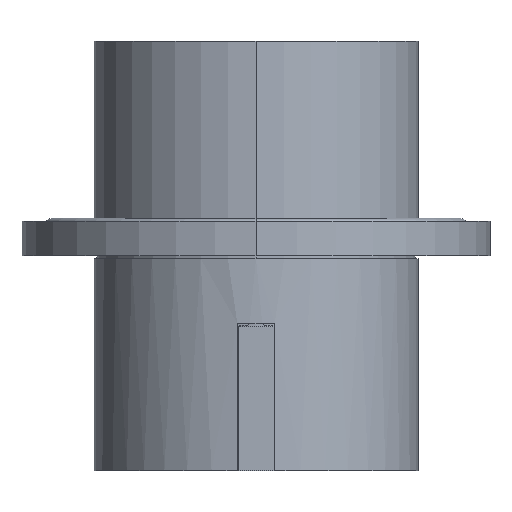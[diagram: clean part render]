
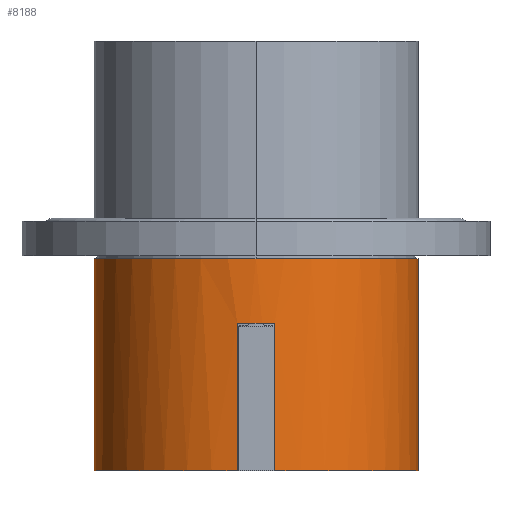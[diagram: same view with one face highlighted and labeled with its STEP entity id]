
A CAD part, left-side view. The second image highlights one B-rep face of the part: STEP entity #8188.
In plain terms, the highlighted cylindrical face has radius 22.5 mm (diameter 45 mm), a partial arc.
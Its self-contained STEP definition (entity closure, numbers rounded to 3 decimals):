
#7891=CARTESIAN_POINT('',(0.,0.,-9.));
#7892=DIRECTION('',(0.,0.,-1.));
#7893=DIRECTION('',(0.116,-0.993,0.));
#7894=AXIS2_PLACEMENT_3D('',#7891,#7892,#7893);
#7896=DIRECTION('',(0.,0.,-1.));
#7897=VECTOR('',#7896,20.5);
#7898=CARTESIAN_POINT('',(-2.6,-22.349,-9.));
#7899=LINE('',#7898,#7897);
#7900=CARTESIAN_POINT('',(0.,0.,0.));
#7901=DIRECTION('',(0.,0.,-1.));
#7902=DIRECTION('',(1.,0.,0.));
#7903=AXIS2_PLACEMENT_3D('',#7900,#7901,#7902);
#7905=DIRECTION('',(0.,0.,-1.));
#7906=VECTOR('',#7905,20.5);
#7907=CARTESIAN_POINT('',(2.6,-22.349,-9.));
#7908=LINE('',#7907,#7906);
#7962=DIRECTION('',(0.,0.,-1.));
#7963=VECTOR('',#7962,29.5);
#7964=CARTESIAN_POINT('',(22.5,0.,0.));
#7965=LINE('',#7964,#7963);
#7971=DIRECTION('',(0.,0.,-1.));
#7972=VECTOR('',#7971,29.5);
#7973=CARTESIAN_POINT('',(-22.5,0.,0.));
#7974=LINE('',#7973,#7972);
#7992=CARTESIAN_POINT('',(0.,0.,-29.5));
#7993=DIRECTION('',(0.,0.,-1.));
#7994=DIRECTION('',(-0.116,-0.993,0.));
#7995=AXIS2_PLACEMENT_3D('',#7992,#7993,#7994);
#8001=CARTESIAN_POINT('',(0.,0.,-29.5));
#8002=DIRECTION('',(0.,0.,-1.));
#8003=DIRECTION('',(1.,0.,0.));
#8004=AXIS2_PLACEMENT_3D('',#8001,#8002,#8003);
#8011=CARTESIAN_POINT('',(22.5,0.,0.));
#8012=CARTESIAN_POINT('',(22.5,0.,-29.5));
#8013=VERTEX_POINT('',#8011);
#8014=VERTEX_POINT('',#8012);
#8015=CARTESIAN_POINT('',(-22.5,0.,0.));
#8016=CARTESIAN_POINT('',(-22.5,0.,-29.5));
#8017=VERTEX_POINT('',#8015);
#8018=VERTEX_POINT('',#8016);
#8031=CARTESIAN_POINT('',(2.6,-22.349,-9.));
#8032=CARTESIAN_POINT('',(-2.6,-22.349,-9.));
#8033=VERTEX_POINT('',#8031);
#8034=VERTEX_POINT('',#8032);
#8035=CARTESIAN_POINT('',(-2.6,-22.349,-29.5));
#8036=VERTEX_POINT('',#8035);
#8037=CARTESIAN_POINT('',(2.6,-22.349,-29.5));
#8038=VERTEX_POINT('',#8037);
#8167=CARTESIAN_POINT('',(0.,0.,1.475));
#8168=DIRECTION('',(0.,0.,-1.));
#8169=DIRECTION('',(1.,0.,0.));
#8170=AXIS2_PLACEMENT_3D('',#8167,#8168,#8169);
#8171=CYLINDRICAL_SURFACE('',#8170,22.5);
#8173=ORIENTED_EDGE('',*,*,#8172,.T.);
#8174=ORIENTED_EDGE('',*,*,#8104,.T.);
#8176=ORIENTED_EDGE('',*,*,#8175,.T.);
#8178=ORIENTED_EDGE('',*,*,#8177,.F.);
#8179=ORIENTED_EDGE('',*,*,#8155,.F.);
#8181=ORIENTED_EDGE('',*,*,#8180,.T.);
#8183=ORIENTED_EDGE('',*,*,#8182,.T.);
#8185=ORIENTED_EDGE('',*,*,#8184,.F.);
#8186=EDGE_LOOP('',(#8173,#8174,#8176,#8178,#8179,#8181,#8183,#8185));
#8187=FACE_OUTER_BOUND('',#8186,.F.);
#7895=CIRCLE('',#7894,22.5);
#7904=CIRCLE('',#7903,22.5);
#7996=CIRCLE('',#7995,22.5);
#8005=CIRCLE('',#8004,22.5);
#8104=EDGE_CURVE('',#8034,#8036,#7899,.T.);
#8155=EDGE_CURVE('',#8013,#8017,#7904,.T.);
#8172=EDGE_CURVE('',#8033,#8034,#7895,.T.);
#8175=EDGE_CURVE('',#8036,#8018,#7996,.T.);
#8177=EDGE_CURVE('',#8017,#8018,#7974,.T.);
#8180=EDGE_CURVE('',#8013,#8014,#7965,.T.);
#8182=EDGE_CURVE('',#8014,#8038,#8005,.T.);
#8184=EDGE_CURVE('',#8033,#8038,#7908,.T.);
#8188=ADVANCED_FACE('',(#8187),#8171,.T.);
